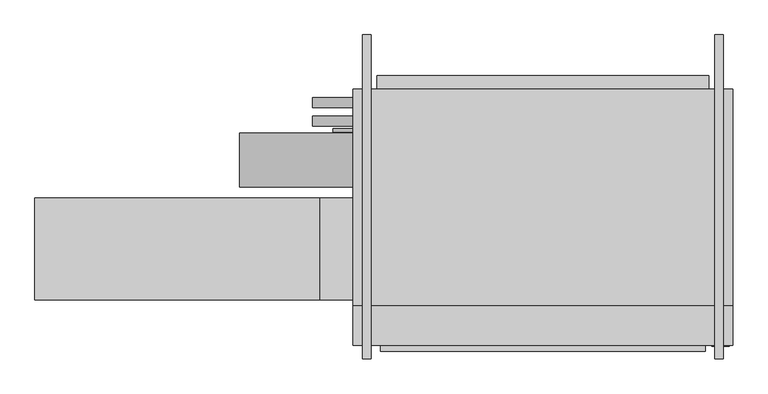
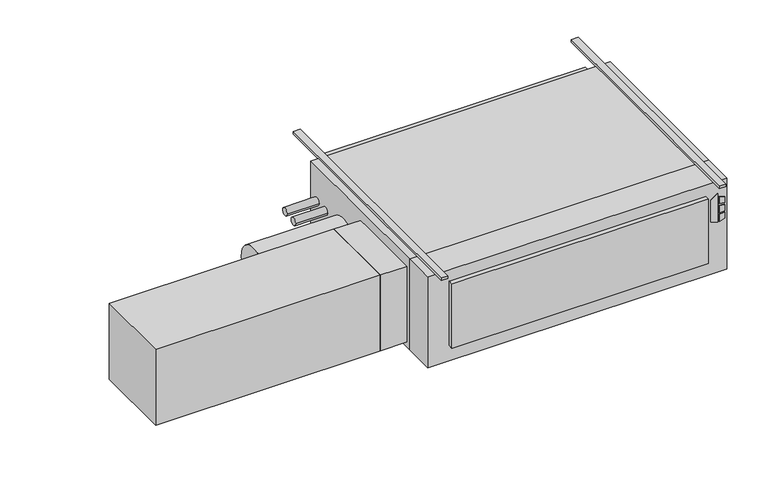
"""IFC4 building model written with IfcOpenShell, lengths in millimetres: proxy geometry."""

from ifc_helpers import new_model, si_unit, point, frame, frame_2d, origin, origin_with_axes, place, context, project, spatial, polyline, circle_curve, trimmed, segment, composite_curve, outline, extrude, source, transform, mapped, element, save


def mechanical_equipment_6a731e72(model_context):
    return source(origin(), model_context, "Body", "SweptSolid", [
        extrude(outline(polyline([(-193.2519297, 785.8868862), (-203.2, 818.0602728), (-61.0290756, 818.0602728), (-84.0510817, 785.8868862), (-193.2519297, 785.8868862)])), frame((0.0, -797.052, 0.0), z_axis=(0.0, 1.0, 0.0), x_axis=(0.0, 0.0, 1.0)), (0.0, 0.0, 1.0), 3.175),
        extrude(outline(polyline([(-114.2526443, 824.8186058), (-117.4550368, 850.9), (-88.2261958, 850.9), (-80.1617807, 824.8186058), (-114.2526443, 824.8186058)])), frame((0.0, -797.052, 0.0), z_axis=(0.0, 1.0, 0.0), x_axis=(0.0, 0.0, 1.0)), (0.0, 0.0, 1.0), 3.175),
        extrude(outline(polyline([(-166.1161712, 850.9), (-169.7816721, 824.8186058), (-203.2, 824.8186058), (-194.5657628, 850.9), (-166.1161712, 850.9)])), frame((0.0, -797.052, 0.0), z_axis=(0.0, 1.0, 0.0), x_axis=(0.0, 0.0, 1.0)), (0.0, 0.0, 1.0), 3.175),
        extrude(outline(polyline([(-126.8010097, 850.9), (-124.5191834, 824.8186058), (-160.4567319, 824.8186058), (-157.7154669, 850.9), (-126.8010097, 850.9)])), frame((0.0, -797.052, 0.0), z_axis=(0.0, 1.0, 0.0), x_axis=(0.0, 0.0, 1.0)), (0.0, 0.0, 1.0), 3.175),
        extrude(outline(polyline([(863.6, -793.877), (-558.8, -793.877), (-558.8, -644.525), (863.6, -644.525), (863.6, -793.877)])), frame((0.0, 0.0, -457.2), z_axis=(0.0, 0.0, 1.0), x_axis=(1.0, 0.0, 0.0)), (0.0, 0.0, 1.0), 457.2),
        extrude(outline(polyline([(762.0, -816.229), (-457.2, -816.229), (-457.2, -793.877), (762.0, -793.877), (762.0, -816.229)])), frame((0.0, 0.0, -381.0), z_axis=(0.0, 0.0, 1.0), x_axis=(1.0, 0.0, 0.0)), (0.0, 0.0, 1.0), 323.85),
        extrude(outline(polyline([(-1752.6, -622.3), (-1752.6, -241.3), (-685.8, -241.3), (-685.8, -622.3), (-1752.6, -622.3)])), frame((0.0, 0.0, -431.8), z_axis=(0.0, 0.0, 1.0), x_axis=(1.0, 0.0, 0.0)), (0.0, 0.0, 1.0), 381.0),
        extrude(outline(polyline([(-558.8, -241.3), (-558.8, -622.3), (-685.8, -622.3), (-685.8, -241.3), (-558.8, -241.3)])), frame((0.0, 0.0, -431.8), z_axis=(0.0, 0.0, 1.0), x_axis=(1.0, 0.0, 0.0)), (0.0, 0.0, 1.0), 381.0),
        extrude(outline(composite_curve([segment(trimmed(circle_curve(frame_2d((-98.4896516, -228.6360165)), 101.6), [point((-200.0896516, -228.6360165))], [point((3.1103484, -228.6360165))], False, "CARTESIAN"), True, "CONTINUOUS"), segment(trimmed(circle_curve(frame_2d((-98.4896516, -228.6360165)), 101.6), [point((3.1103484, -228.6360165))], [point((-200.0896516, -228.6360165))], False, "CARTESIAN"), True, "CONTINUOUS")], self_intersect=False)), frame((-984.25, 0.0, 0.0), z_axis=(1.0, 0.0, 0.0), x_axis=(0.0, 1.0, 0.0)), (0.0, 0.0, 1.0), 425.45),
        extrude(outline(composite_curve([segment(trimmed(circle_curve(frame_2d((47.625, -177.8)), 19.05), [point((28.575, -177.8))], [point((66.675, -177.8))], False, "CARTESIAN"), True, "CONTINUOUS"), segment(trimmed(circle_curve(frame_2d((47.625, -177.8)), 19.05), [point((66.675, -177.8))], [point((28.575, -177.8))], False, "CARTESIAN"), True, "CONTINUOUS")], self_intersect=False)), frame((-711.2, 0.0, 0.0), z_axis=(1.0, 0.0, 0.0), x_axis=(0.0, 1.0, 0.0)), (0.0, 0.0, 1.0), 152.4),
        extrude(outline(composite_curve([segment(trimmed(circle_curve(frame_2d((117.475, -171.45)), 19.05), [point((98.425, -171.45))], [point((136.525, -171.45))], False, "CARTESIAN"), True, "CONTINUOUS"), segment(trimmed(circle_curve(frame_2d((117.475, -171.45)), 19.05), [point((136.525, -171.45))], [point((98.425, -171.45))], False, "CARTESIAN"), True, "CONTINUOUS")], self_intersect=False)), frame((-711.2, 0.0, 0.0), z_axis=(1.0, 0.0, 0.0), x_axis=(0.0, 1.0, 0.0)), (0.0, 0.0, 1.0), 152.4),
        extrude(outline(composite_curve([segment(trimmed(circle_curve(frame_2d((12.7, -409.575)), 6.35), [point((6.35, -409.575))], [point((19.05, -409.575))], False, "CARTESIAN"), True, "CONTINUOUS"), segment(trimmed(circle_curve(frame_2d((12.7, -409.575)), 6.35), [point((19.05, -409.575))], [point((6.35, -409.575))], False, "CARTESIAN"), True, "CONTINUOUS")], self_intersect=False)), frame((-635.0, 0.0, 0.0), z_axis=(1.0, 0.0, 0.0), x_axis=(0.0, 1.0, 0.0)), (0.0, 0.0, 1.0), 76.2),
        extrude(outline(polyline([(863.6, 168.275), (863.6, -644.525), (-558.8, -644.525), (-558.8, 168.275), (863.6, 168.275)])), frame((0.0, 0.0, -457.2), z_axis=(0.0, 0.0, 1.0), x_axis=(1.0, 0.0, 0.0)), (0.0, 0.0, 1.0), 457.2),
        extrude(outline(polyline([(-469.9, 219.075), (774.7, 219.075), (774.7, 168.275), (-469.9, 168.275), (-469.9, 219.075)])), frame((0.0, 0.0, -381.0), z_axis=(0.0, 0.0, 1.0), x_axis=(1.0, 0.0, 0.0)), (0.0, 0.0, 1.0), 355.6),
        extrude(outline(polyline([(-492.125, 371.475), (-492.125, -844.677), (-523.875, -844.677), (-523.875, 371.475), (-492.125, 371.475)])), origin_with_axes(), (0.0, 0.0, 1.0), 12.7),
        extrude(outline(polyline([(828.675, 371.475), (828.675, -844.677), (796.925, -844.677), (796.925, 371.475), (828.675, 371.475)])), origin_with_axes(), (0.0, 0.0, 1.0), 12.7),
    ])


if __name__ == "__main__":
    model = new_model("IFC4")
    model_context = context("Model", 3, world=origin())
    ifc_project = project(units=[si_unit("LENGTHUNIT", "METRE", prefix="MILLI")], contexts=[model_context])
    site = spatial("IfcSite", under=ifc_project)
    building = spatial("IfcBuilding", under=site)
    placement = place(None, origin())
    mechanical_equipment_shape = mechanical_equipment_6a731e72(model_context)
    element("IfcBuildingElementProxy", 1, Name="High_Capacity_Horizontal_Cabinet_Fan_Coil_Unit_-_HTY_-_IEC_-_2 Pipe, Elec Heat_LH Side_2022 : Size 20 - 277v/60Hz/1Ph - 8/0 Coil 10.0kW - 8\" AirIn", ObjectType="High_Capacity_Horizontal_Cabinet_Fan_Coil_Unit_-_HTY_-_IEC_-_2 Pipe, Elec Heat_LH Side_2022 : Size 20 - 277v/60Hz/1Ph - 8/0 Coil 10.0kW - 8\" AirIn", at=placement, inside=building, context=model_context, shape_type="MappedRepresentation", body=[
        mapped(mechanical_equipment_shape, transform((0.0, 0.0, 0.0), x_axis=(1.0, 0.0, 0.0), y_axis=(0.0, 1.0, 0.0), z_axis=(0.0, 0.0, 1.0))),
    ])
    save(model, "model.ifc")
